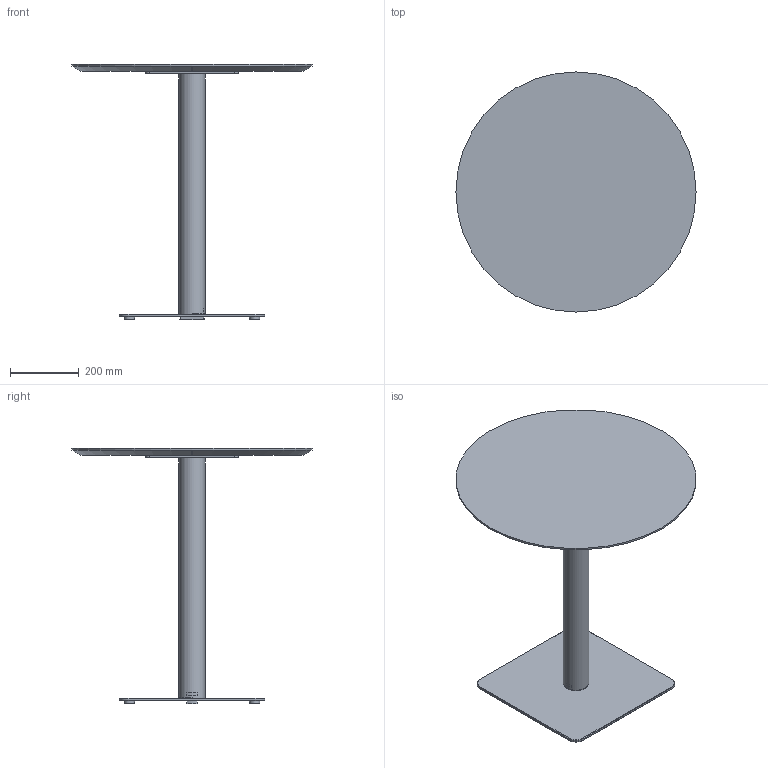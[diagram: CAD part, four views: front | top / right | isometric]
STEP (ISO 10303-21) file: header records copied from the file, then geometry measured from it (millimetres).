
FILE_DESCRIPTION( ('This file contains a STEP AP42 implementation' ,'as created by ZW3D STEP Interface translator.') ,'2;1' );
FILE_NAME( 'Henri - B_Carré - F1 - M5 - 700 x 700 x 750.stp' ,'24 912.162447', (''), ('ZWCAD Software Co.'), 'Version 1.0', 'ZW3D to STEP translator', '' );
FILE_SCHEMA(('AUTOMOTIVE_DESIGN { 1 0 10303 214 1 1 1 1 }'));
Length unit declared in the file: millimetre
Products named in the file (14): 0; PIED BISTROT PARAMETRIQUE_; COLONNE ACIER Ø76 V.02_; TUB-D076-02_; PLA-R76B-01_; CROIX ACIER 370 V.02_; CRX-X370-02_; SOCLE ACIER L 425x425 V.02_; SCL-R425-02_; PLA-R30A-01_; PLA-R30A-01; WUERTH 0276063020 Euro-screw 6.3x2 Verzinkt_; PLATEAU BISTROT PARAMETRIQUE_; insert_m6_13_
Assembly tree (22 placements, depth 3):
  0
  PIED BISTROT PARAMETRIQUE_
    COLONNE ACIER Ø76 V.02_
      TUB-D076-02_
      PLA-R76B-01_  x2
    CROIX ACIER 370 V.02_
      CRX-X370-02_
    SOCLE ACIER L 425x425 V.02_
      SCL-R425-02_
      PLA-R30A-01_
      PLA-R30A-01  x3
    WUERTH 0276063020 Euro-screw 6.3x2 Verzinkt_
    PLATEAU BISTROT PARAMETRIQUE_
      insert_m6_13_  x8
Bounding box: 700 x 700 x 744 mm (x, y, z)
Volume: 9662633.4 mm3; surface area: 1683088.9 mm2
Topology: 19 solids, 19 shells, 529 faces, 1294 edges, 814 vertices
Faces by surface type: plane 258, bspline 121, cylinder 98, cone 51, torus 1
Full cylindrical faces by diameter (mm): 4.88 x1, 6 x8, 6.3 x1, 8 x45, 12 x2, 14 x2, 30 x4, 72 x1, 76 x1
Entity records: 12106 total; most frequent: CARTESIAN_POINT 3364, ORIENTED_EDGE 1592, DIRECTION 1483, EDGE_CURVE 796, VERTEX_POINT 510, VECTOR 501, LINE 501, AXIS2_PLACEMENT_3D 491
